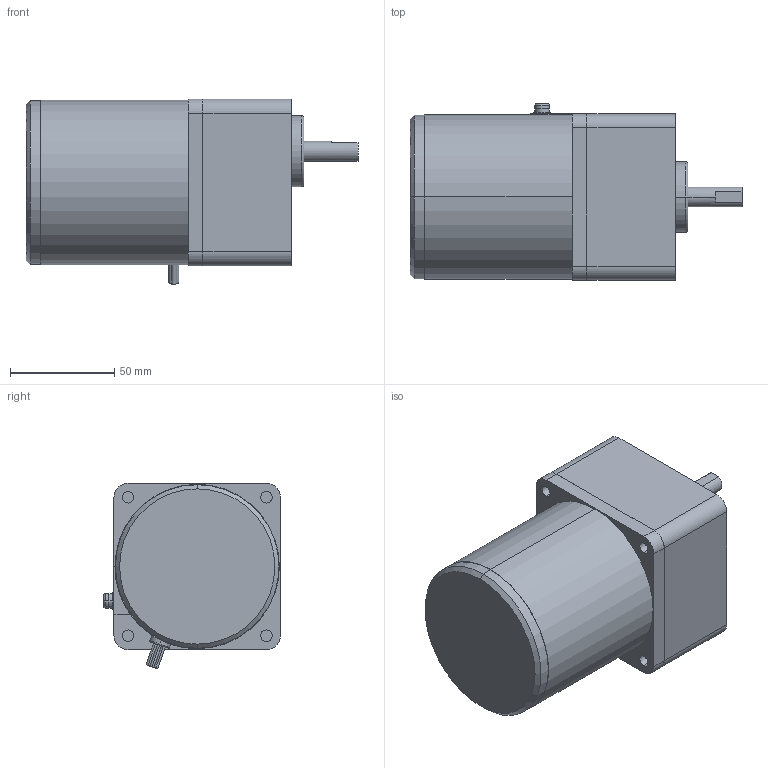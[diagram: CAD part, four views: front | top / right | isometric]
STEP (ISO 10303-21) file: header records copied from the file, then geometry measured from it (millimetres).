
FILE_DESCRIPTION(('starvars output'),'2;1');
FILE_NAME('4RK25GN-CW2E _ 4GN50SA.stp','13:43:09 2015/05/11',( 'Thomas Industrial Network Germany GmbH'),( 'Thomas Industrial Network Germany GmbH'),'unknown preprocess','ACIS' ,'unknown authorization');
FILE_SCHEMA(('AUTOMOTIVE_DESIGN_CC2 {UNKNOWN IMPLEMENTATION LEVEL}'));
Length unit declared in the file: millimetre
Products named in the file (1): PRODUCT_ID_1688
Bounding box: 159.5 x 85 x 89.14 mm (x, y, z)
Volume: 694169.3 mm3; surface area: 53095.8 mm2
Topology: 1 solids, 1 shells, 104 faces, 233 edges, 153 vertices
Faces by surface type: cylinder 54, plane 42, torus 6, cone 2
Entity records: 3557 total; most frequent: CARTESIAN_POINT 484, ORIENTED_EDGE 466, DIRECTION 417, EDGE_CURVE 233, AXIS2_PLACEMENT_3D 156, VERTEX_POINT 153, EDGE_LOOP 126, FACE_BOUND 126
